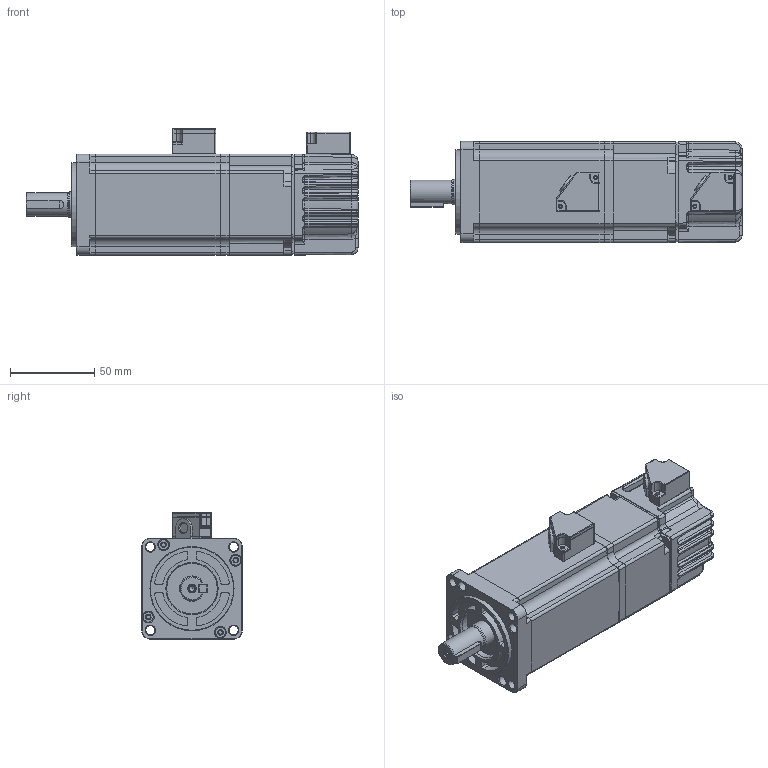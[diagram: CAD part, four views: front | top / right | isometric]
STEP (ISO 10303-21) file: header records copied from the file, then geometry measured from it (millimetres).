
FILE_DESCRIPTION( ( 'Unknown' ), '1' );
FILE_NAME( 'C:/Documents and Settings/chasechiu/桌面/KM/TSC06_3D_brake without connect/DTSC06401C3BGUD0K.stp', 'Unknown', ( 'Unknown' ), ( 'Unknown' ), 'PSStep 14.0', 'Unknown', ' ' );
FILE_SCHEMA( ( 'AUTOMOTIVE_DESIGN { 1 0 10303 214 1 1 1 1 }' ) );
Length unit declared in the file: millimetre
Products named in the file (17): 0S140E1203822-00; 0S152W6A15H01-00-oa1; 0S200EM00000F-00; 0S211EM00000F-00; 0S180EMC3BAUP-02; 0S331EMA0B20P-02; 0S871WHPPCN20-02-oa0; Assem1; 0S152W6A15H01-00; 0S871WHPPCN20-02; 0S302E0A1B30P-01; 0S301E0A0B30P-01; 0S363E6037PBP-01; 0S861EB152211-00; 0S362E6038PB1-00; 0987-; 0Y204E0520001-00
Assembly tree (16 placements, depth 4):
  Assem1
    0S152W6A15H01-00
    0S871WHPPCN20-02
    0S302E0A1B30P-01
    0S301E0A0B30P-01
    0S363E6037PBP-01
    0S861EB152211-00
    0S362E6038PB1-00
    0987-
    0Y204E0520001-00
    0S180EMC3BAUP-02
      0S331EMA0B20P-02
      0S871WHPPCN20-02-oa0
      0S140E1203822-00
        0S152W6A15H01-00-oa1
    0S200EM00000F-00
      0S211EM00000F-00
Bounding box: 197.3 x 60 x 75 mm (x, y, z)
Volume: 560886.2 mm3; surface area: 99082.4 mm2
Topology: 13 solids, 13 shells, 1146 faces, 2875 edges, 1709 vertices
Faces by surface type: cylinder 411, plane 358, bspline 214, cone 91, torus 41, sphere 31
Full cylindrical faces by diameter (mm): 1.567 x4, 2.121 x1, 2.2 x2, 2.3 x2, 2.459 x12, 2.5 x10, 3.242 x1, 3.3 x8, 3.5 x12, 4.2 x1, 5.5 x4, 5.8 x2, 6 x8, 14 x1, 14.9 x1, 15 x1, 26 x1, 30 x1, 50 x1, 55.4 x1, 56 x2, 57.6 x4
Entity records: 55405 total; most frequent: CARTESIAN_POINT 20549, DIRECTION 5260, ORIENTED_EDGE 5226, EDGE_CURVE 2613, AXIS2_PLACEMENT_3D 2055, VERTEX_POINT 1647, EDGE_LOOP 1383, FACE_OUTER_BOUND 1227
